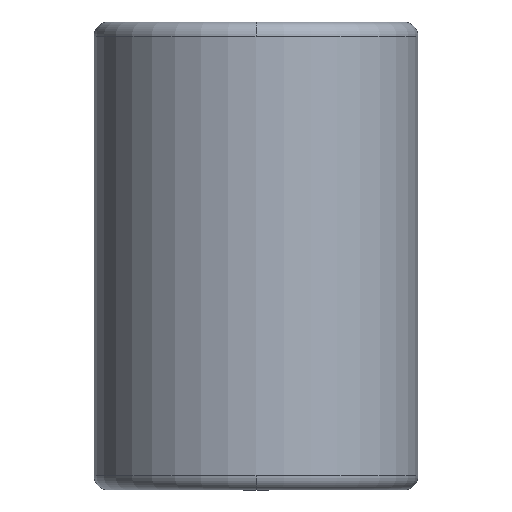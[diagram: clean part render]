
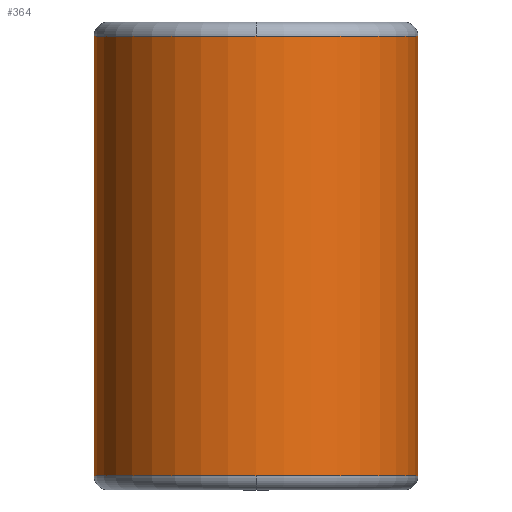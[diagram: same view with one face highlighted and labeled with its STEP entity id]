
A CAD part, front view. The second image highlights one B-rep face of the part: STEP entity #364.
In plain terms, the highlighted cylindrical face has radius 22.494 mm (diameter 44.988 mm), a partial arc.
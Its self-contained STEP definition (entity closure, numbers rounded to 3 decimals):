
#269=CARTESIAN_POINT('',(0.0,-22.494,63.));
#270=VERTEX_POINT('',#269);
#296=CARTESIAN_POINT('',(-22.494,0.,63.0));
#297=VERTEX_POINT('',#296);
#305=CARTESIAN_POINT('',(0.0,0.,63.0));
#306=DIRECTION('',(0.0,0.0,1.0));
#307=DIRECTION('',(1.0,0.0,0.0));
#308=AXIS2_PLACEMENT_3D('',#305,#306,#307);
#309=CIRCLE('',#308,22.494);
#310=EDGE_CURVE('',#297,#270,#309,.T.);
#315=CARTESIAN_POINT('',(0.0,0.,32.5));
#316=DIRECTION('',(0.0,0.,1.0));
#317=DIRECTION('',(1.0,0.0,0.0));
#318=AXIS2_PLACEMENT_3D('',#315,#316,#317);
#319=CYLINDRICAL_SURFACE('',#318,22.494);
#320=CARTESIAN_POINT('',(22.494,0.,63.0));
#321=VERTEX_POINT('',#320);
#322=CARTESIAN_POINT('',(22.494,0.,2.));
#323=VERTEX_POINT('',#322);
#324=CARTESIAN_POINT('',(22.494,0.,63.0));
#325=DIRECTION('',(0.0,0.0,-1.0));
#326=VECTOR('',#325,61.0);
#327=LINE('',#324,#326);
#328=EDGE_CURVE('',#321,#323,#327,.T.);
#329=ORIENTED_EDGE('',*,*,#328,.F.);
#330=CARTESIAN_POINT('',(0.0,0.,63.0));
#331=DIRECTION('',(0.0,0.0,1.0));
#332=DIRECTION('',(1.0,0.0,0.0));
#333=AXIS2_PLACEMENT_3D('',#330,#331,#332);
#334=CIRCLE('',#333,22.494);
#335=EDGE_CURVE('',#270,#321,#334,.T.);
#336=ORIENTED_EDGE('',*,*,#335,.F.);
#337=ORIENTED_EDGE('',*,*,#310,.F.);
#338=CARTESIAN_POINT('',(-22.494,0.,2.0));
#339=VERTEX_POINT('',#338);
#340=CARTESIAN_POINT('',(-22.494,0.,63.0));
#341=DIRECTION('',(0.0,0.0,-1.0));
#342=VECTOR('',#341,61.0);
#343=LINE('',#340,#342);
#344=EDGE_CURVE('',#297,#339,#343,.T.);
#345=ORIENTED_EDGE('',*,*,#344,.T.);
#346=CARTESIAN_POINT('',(0.0,-22.494,2.));
#347=VERTEX_POINT('',#346);
#348=CARTESIAN_POINT('',(0.0,0.,2.0));
#349=DIRECTION('',(0.0,0.0,1.0));
#350=DIRECTION('',(1.0,0.0,0.0));
#351=AXIS2_PLACEMENT_3D('',#348,#349,#350);
#352=CIRCLE('',#351,22.494);
#353=EDGE_CURVE('',#339,#347,#352,.T.);
#354=ORIENTED_EDGE('',*,*,#353,.T.);
#355=CARTESIAN_POINT('',(0.0,0.,2.0));
#356=DIRECTION('',(0.0,0.0,1.0));
#357=DIRECTION('',(1.0,0.0,0.0));
#358=AXIS2_PLACEMENT_3D('',#355,#356,#357);
#359=CIRCLE('',#358,22.494);
#360=EDGE_CURVE('',#347,#323,#359,.T.);
#361=ORIENTED_EDGE('',*,*,#360,.T.);
#362=EDGE_LOOP('',(#329,#336,#337,#345,#354,#361));
#363=FACE_OUTER_BOUND('',#362,.T.);
#364=ADVANCED_FACE('',(#363),#319,.T.);
